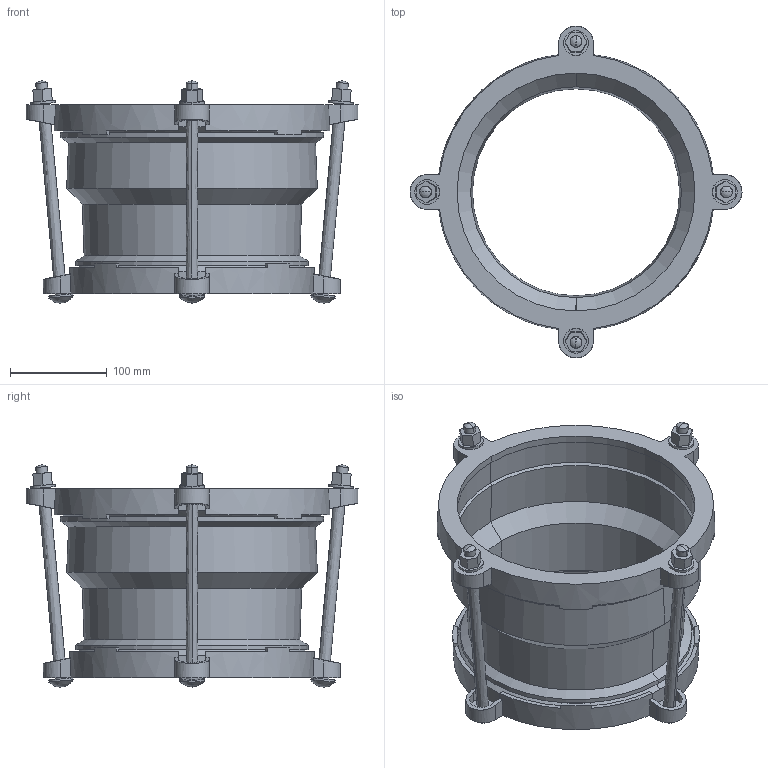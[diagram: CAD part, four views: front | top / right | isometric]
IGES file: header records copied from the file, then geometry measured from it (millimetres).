
Start section:  PTC IGES file: stepped_maxifit_212-218.igs
Global section: file name: stepped_maxifit_212-218.igs; native system: Creo Parametric by PTC Inc.; preprocessor: 2016130; author: MReader; organization: Unknown; date: 20181010.145818; units: millimetre
Bounding box: 342.5 x 342.5 x 229.09 mm (x, y, z)
Surface area: 471932 mm2 (no closed solid volume)
Topology: 0 solids, 0 shells, 282 faces, 1448 edges, 1432 vertices
Faces by surface type: revolution 160, bspline 122
